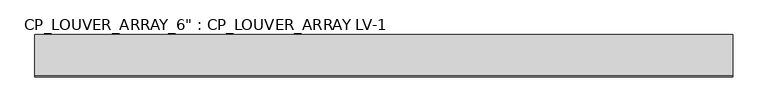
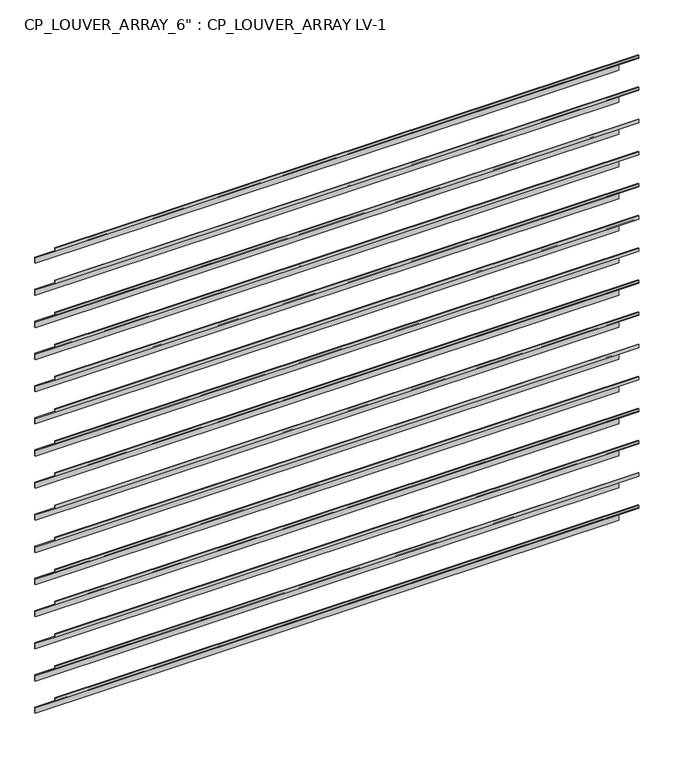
"""IFC4 building model written with IfcOpenShell, lengths in millimetres: plate geometry."""

from ifc_helpers import new_model, si_unit, frame, origin, place, context, project, spatial, polyline, outline, extrude, source, transform, mapped, element, save


def plate_8ccc1476(model_context):
    return source(origin(), model_context, "Body", "SweptSolid", [
        extrude(outline(polyline([(10.1207966, 2146.3), (6.9457966, 2146.3), (6.9457966, 2172.2070081), (-148.6292034, 2296.6670081), (-148.6292034, 2311.4), (-145.4542034, 2311.4), (-145.4542034, 2298.1929919), (10.1207966, 2173.7329919), (10.1207966, 2146.3)])), frame((-1308.1, 0.0, 0.0), z_axis=(1.0, 0.0, 0.0), x_axis=(0.0, 1.0, 0.0)), (0.0, 0.0, 1.0), 2616.2),
        extrude(outline(polyline([(10.1207966, 1993.9), (6.9457966, 1993.9), (6.9457966, 2019.8070081), (-148.6292034, 2144.2670081), (-148.6292034, 2159.0), (-145.4542034, 2159.0), (-145.4542034, 2145.7929919), (10.1207966, 2021.3329919), (10.1207966, 1993.9)])), frame((-1308.1, 0.0, 0.0), z_axis=(1.0, 0.0, 0.0), x_axis=(0.0, 1.0, 0.0)), (0.0, 0.0, 1.0), 2616.2),
        extrude(outline(polyline([(10.1207966, 1841.5), (6.9457966, 1841.5), (6.9457966, 1867.4070081), (-148.6292034, 1991.8670081), (-148.6292034, 2006.6), (-145.4542034, 2006.6), (-145.4542034, 1993.3929919), (10.1207966, 1868.9329919), (10.1207966, 1841.5)])), frame((-1308.1, 0.0, 0.0), z_axis=(1.0, 0.0, 0.0), x_axis=(0.0, 1.0, 0.0)), (0.0, 0.0, 1.0), 2616.2),
        extrude(outline(polyline([(10.1207966, 1689.1), (6.9457966, 1689.1), (6.9457966, 1715.0070081), (-148.6292034, 1839.4670081), (-148.6292034, 1854.2), (-145.4542034, 1854.2), (-145.4542034, 1840.9929919), (10.1207966, 1716.5329919), (10.1207966, 1689.1)])), frame((-1308.1, 0.0, 0.0), z_axis=(1.0, 0.0, 0.0), x_axis=(0.0, 1.0, 0.0)), (0.0, 0.0, 1.0), 2616.2),
        extrude(outline(polyline([(10.1207966, 1536.7), (6.9457966, 1536.7), (6.9457966, 1562.6070081), (-148.6292034, 1687.0670081), (-148.6292034, 1701.8), (-145.4542034, 1701.8), (-145.4542034, 1688.5929919), (10.1207966, 1564.1329919), (10.1207966, 1536.7)])), frame((-1308.1, 0.0, 0.0), z_axis=(1.0, 0.0, 0.0), x_axis=(0.0, 1.0, 0.0)), (0.0, 0.0, 1.0), 2616.2),
        extrude(outline(polyline([(10.1207966, 1384.3), (6.9457966, 1384.3), (6.9457966, 1410.2070081), (-148.6292034, 1534.6670081), (-148.6292034, 1549.4), (-145.4542034, 1549.4), (-145.4542034, 1536.1929919), (10.1207966, 1411.7329919), (10.1207966, 1384.3)])), frame((-1308.1, 0.0, 0.0), z_axis=(1.0, 0.0, 0.0), x_axis=(0.0, 1.0, 0.0)), (0.0, 0.0, 1.0), 2616.2),
        extrude(outline(polyline([(10.1207966, 1231.9), (6.9457966, 1231.9), (6.9457966, 1257.8070081), (-148.6292034, 1382.2670081), (-148.6292034, 1397.0), (-145.4542034, 1397.0), (-145.4542034, 1383.7929919), (10.1207966, 1259.3329919), (10.1207966, 1231.9)])), frame((-1308.1, 0.0, 0.0), z_axis=(1.0, 0.0, 0.0), x_axis=(0.0, 1.0, 0.0)), (0.0, 0.0, 1.0), 2616.2),
        extrude(outline(polyline([(10.1207966, 1079.5), (6.9457966, 1079.5), (6.9457966, 1105.4070081), (-148.6292034, 1229.8670081), (-148.6292034, 1244.6), (-145.4542034, 1244.6), (-145.4542034, 1231.3929919), (10.1207966, 1106.9329919), (10.1207966, 1079.5)])), frame((-1308.1, 0.0, 0.0), z_axis=(1.0, 0.0, 0.0), x_axis=(0.0, 1.0, 0.0)), (0.0, 0.0, 1.0), 2616.2),
        extrude(outline(polyline([(10.1207966, 927.1), (6.9457966, 927.1), (6.9457966, 953.0070081), (-148.6292034, 1077.4670081), (-148.6292034, 1092.2), (-145.4542034, 1092.2), (-145.4542034, 1078.9929919), (10.1207966, 954.5329919), (10.1207966, 927.1)])), frame((-1308.1, 0.0, 0.0), z_axis=(1.0, 0.0, 0.0), x_axis=(0.0, 1.0, 0.0)), (0.0, 0.0, 1.0), 2616.2),
        extrude(outline(polyline([(10.1207966, 774.7), (6.9457966, 774.7), (6.9457966, 800.6070081), (-148.6292034, 925.0670081), (-148.6292034, 939.8), (-145.4542034, 939.8), (-145.4542034, 926.5929919), (10.1207966, 802.1329919), (10.1207966, 774.7)])), frame((-1308.1, 0.0, 0.0), z_axis=(1.0, 0.0, 0.0), x_axis=(0.0, 1.0, 0.0)), (0.0, 0.0, 1.0), 2616.2),
        extrude(outline(polyline([(10.1207966, 622.3), (6.9457966, 622.3), (6.9457966, 648.2070081), (-148.6292034, 772.6670081), (-148.6292034, 787.4), (-145.4542034, 787.4), (-145.4542034, 774.1929919), (10.1207966, 649.7329919), (10.1207966, 622.3)])), frame((-1308.1, 0.0, 0.0), z_axis=(1.0, 0.0, 0.0), x_axis=(0.0, 1.0, 0.0)), (0.0, 0.0, 1.0), 2616.2),
        extrude(outline(polyline([(10.1207966, 469.9), (6.9457966, 469.9), (6.9457966, 495.8070081), (-148.6292034, 620.2670081), (-148.6292034, 635.0), (-145.4542034, 635.0), (-145.4542034, 621.7929919), (10.1207966, 497.3329919), (10.1207966, 469.9)])), frame((-1308.1, 0.0, 0.0), z_axis=(1.0, 0.0, 0.0), x_axis=(0.0, 1.0, 0.0)), (0.0, 0.0, 1.0), 2616.2),
        extrude(outline(polyline([(10.1207966, 317.5), (6.9457966, 317.5), (6.9457966, 343.4070081), (-148.6292034, 467.8670081), (-148.6292034, 482.6), (-145.4542034, 482.6), (-145.4542034, 469.3929919), (10.1207966, 344.9329919), (10.1207966, 317.5)])), frame((-1308.1, 0.0, 0.0), z_axis=(1.0, 0.0, 0.0), x_axis=(0.0, 1.0, 0.0)), (0.0, 0.0, 1.0), 2616.2),
        extrude(outline(polyline([(10.1207966, 165.1), (6.9457966, 165.1), (6.9457966, 191.0070081), (-148.6292034, 315.4670081), (-148.6292034, 330.2), (-145.4542034, 330.2), (-145.4542034, 316.9929919), (10.1207966, 192.5329919), (10.1207966, 165.1)])), frame((-1308.1, 0.0, 0.0), z_axis=(1.0, 0.0, 0.0), x_axis=(0.0, 1.0, 0.0)), (0.0, 0.0, 1.0), 2616.2),
        extrude(outline(polyline([(10.1207966, 12.7), (6.9457966, 12.7), (6.9457966, 38.6070081), (-148.6292034, 163.0670081), (-148.6292034, 177.8), (-145.4542034, 177.8), (-145.4542034, 164.5929919), (10.1207966, 40.1329919), (10.1207966, 12.7)])), frame((-1308.1, 0.0, 0.0), z_axis=(1.0, 0.0, 0.0), x_axis=(0.0, 1.0, 0.0)), (0.0, 0.0, 1.0), 2616.2),
    ])


if __name__ == "__main__":
    model = new_model("IFC4")
    model_context = context("Model", 3, world=origin())
    ifc_project = project(units=[si_unit("LENGTHUNIT", "METRE", prefix="MILLI")], contexts=[model_context])
    site = spatial("IfcSite", under=ifc_project)
    building = spatial("IfcBuilding", under=site)
    placement = place(None, origin())
    plate_shape = plate_8ccc1476(model_context)
    element("IfcPlate", 1, ObjectType="CP_LOUVER_ARRAY_6\" : CP_LOUVER_ARRAY LV-1", at=placement, inside=building, context=model_context, shape_type="MappedRepresentation", body=[
        mapped(plate_shape, transform((0.0, 0.0, 0.0), x_axis=(1.0, 0.0, 0.0), y_axis=(0.0, 1.0, 0.0), z_axis=(0.0, 0.0, 1.0))),
    ])
    save(model, "model.ifc")
